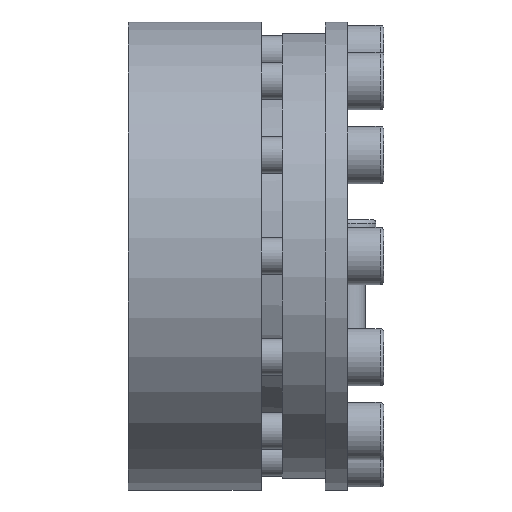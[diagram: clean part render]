
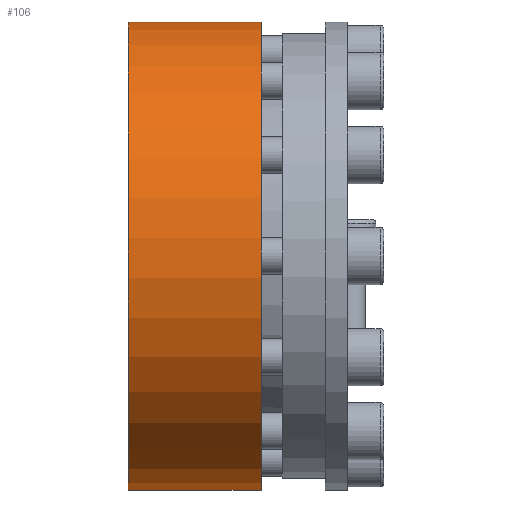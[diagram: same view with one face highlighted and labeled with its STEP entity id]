
A CAD part, left-side view. The second image highlights one B-rep face of the part: STEP entity #106.
In plain terms, the highlighted cylindrical face has radius 90 mm (diameter 180 mm), a partial arc.
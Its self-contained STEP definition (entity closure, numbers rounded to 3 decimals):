
#106 = ADVANCED_FACE( '', ( #261 ), #262, .T. );
#261 = FACE_OUTER_BOUND( '', #485, .T. );
#262 = CYLINDRICAL_SURFACE( '', #486, 90. );
#485 = EDGE_LOOP( '', ( #788, #789, #790, #791 ) );
#486 = AXIS2_PLACEMENT_3D( '', #792, #793, #794 );
#788 = ORIENTED_EDGE( '', *, *, #1117, .F. );
#789 = ORIENTED_EDGE( '', *, *, #1118, .T. );
#790 = ORIENTED_EDGE( '', *, *, #1072, .T. );
#791 = ORIENTED_EDGE( '', *, *, #1092, .T. );
#792 = CARTESIAN_POINT( '', ( 0., -60., 0. ) );
#793 = DIRECTION( '', ( 0., 1., 0. ) );
#794 = DIRECTION( '', ( 0., 0., -1. ) );
#1072 = EDGE_CURVE( '', #1275, #1276, #1277, .T. );
#1092 = EDGE_CURVE( '', #1276, #1309, #1311, .T. );
#1117 = EDGE_CURVE( '', #1352, #1309, #1353, .T. );
#1118 = EDGE_CURVE( '', #1352, #1275, #1354, .F. );
#1275 = VERTEX_POINT( '', #1616 );
#1276 = VERTEX_POINT( '', #1617 );
#1277 = CIRCLE( '', #1618, 90. );
#1309 = VERTEX_POINT( '', #1664 );
#1311 = LINE( '', #1667, #1668 );
#1352 = VERTEX_POINT( '', #1714 );
#1353 = CIRCLE( '', #1715, 90. );
#1354 = LINE( '', #1716, #1717 );
#1616 = CARTESIAN_POINT( '', ( 21.55, 84., 87.382 ) );
#1617 = CARTESIAN_POINT( '', ( 25.028, 84., 86.45 ) );
#1618 = AXIS2_PLACEMENT_3D( '', #1885, #1886, #1887 );
#1664 = CARTESIAN_POINT( '', ( 25.028, 33., 86.45 ) );
#1667 = CARTESIAN_POINT( '', ( 25.028, -60., 86.45 ) );
#1668 = VECTOR( '', #1912, 1000. );
#1714 = CARTESIAN_POINT( '', ( 21.55, 33., 87.382 ) );
#1715 = AXIS2_PLACEMENT_3D( '', #1963, #1964, #1965 );
#1716 = CARTESIAN_POINT( '', ( 21.55, -60., 87.382 ) );
#1717 = VECTOR( '', #1966, 1000. );
#1885 = CARTESIAN_POINT( '', ( 0., 84., 0. ) );
#1886 = DIRECTION( '', ( 0., -1., 0. ) );
#1887 = DIRECTION( '', ( 0., 0., -1. ) );
#1912 = DIRECTION( '', ( 0., -1., 0. ) );
#1963 = CARTESIAN_POINT( '', ( 0., 33., 0. ) );
#1964 = DIRECTION( '', ( 0., -1., 0. ) );
#1965 = DIRECTION( '', ( 0., 0., -1. ) );
#1966 = DIRECTION( '', ( 0., -1., 0. ) );
